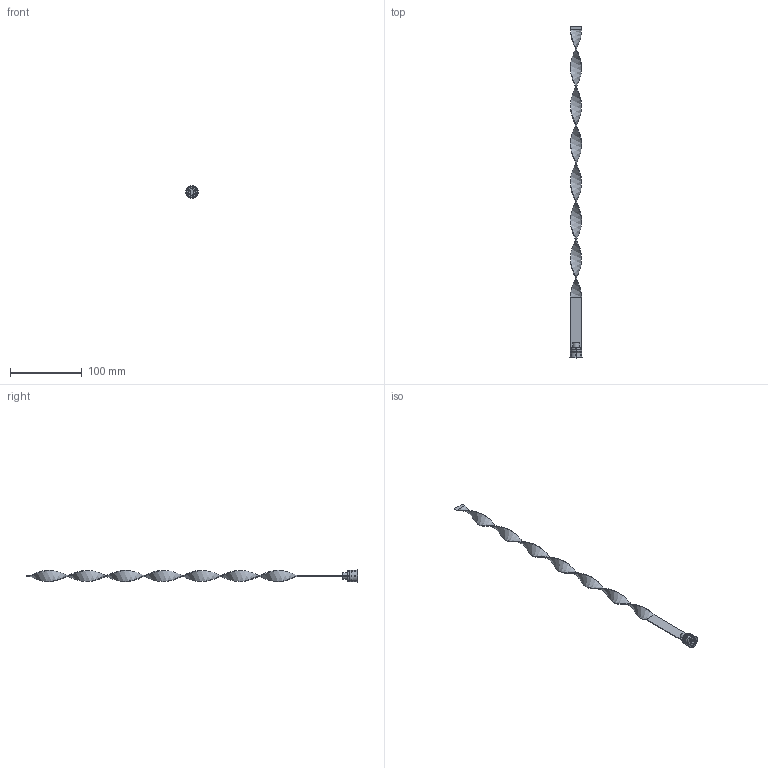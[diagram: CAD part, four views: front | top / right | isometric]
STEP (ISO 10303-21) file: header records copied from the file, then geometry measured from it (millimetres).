
FILE_DESCRIPTION (( 'STEP AP203' ), '1' );
FILE_NAME ('RLS-16Fx450-15,5.STEP', '2015-12-09T15:00:12', ( 'Balzi' ), ( '' ), 'SwSTEP 2.0', 'SolidWorks 2015', '' );
FILE_SCHEMA (( 'CONFIG_CONTROL_DESIGN' ));
Length unit declared in the file: millimetre
Products named in the file (1): RLS-16Fx450-15,5
Bounding box: 17.5 x 464 x 17.5 mm (x, y, z)
Volume: 9906.3 mm3; surface area: 17026.2 mm2
Topology: 1 solids, 1 shells, 83 faces, 193 edges, 117 vertices
Faces by surface type: plane 35, cone 19, cylinder 17, torus 8, bspline 4
Entity records: 5273 total; most frequent: CARTESIAN_POINT 3316, DIRECTION 402, ORIENTED_EDGE 386, EDGE_CURVE 193, AXIS2_PLACEMENT_3D 151, VERTEX_POINT 117, VECTOR 100, LINE 100
